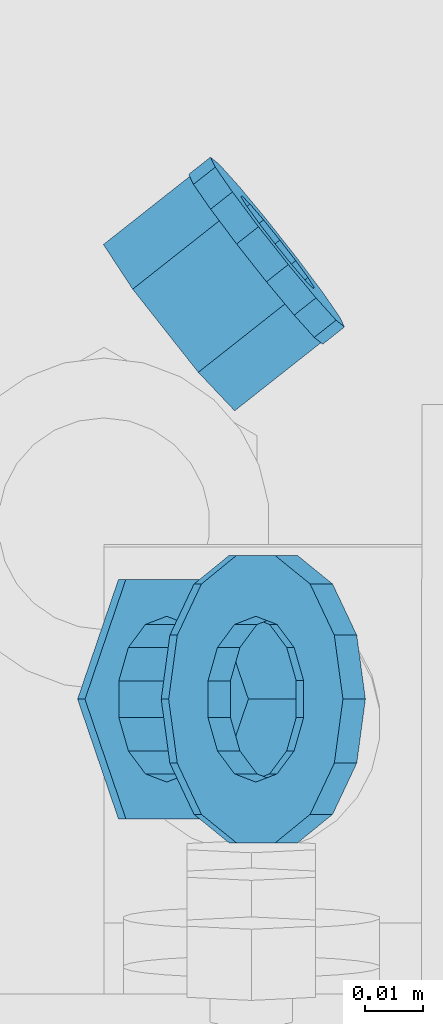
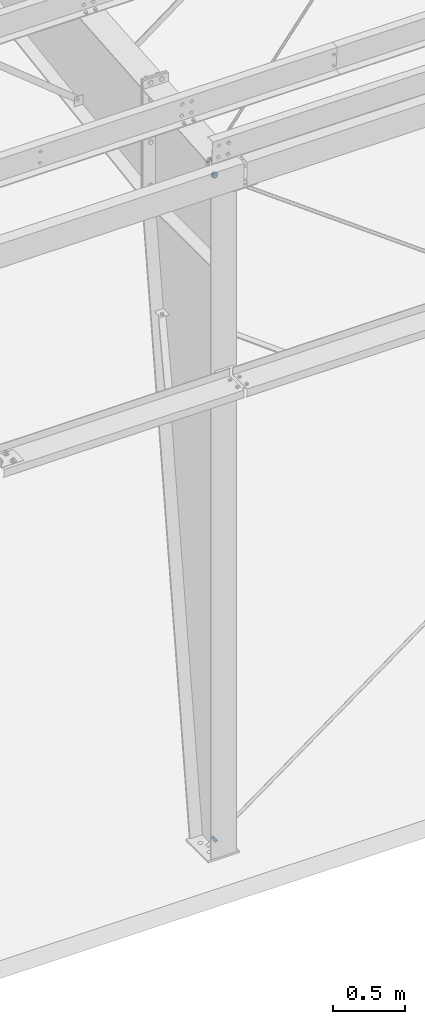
# One storey, part 25 of 185: 4 members, 2 beams, 6 elements without a shape of their own.
"""IFC2X3 building model written with IfcOpenShell, lengths in millimetres."""

from ifc_helpers import new_model, si_unit, frame, origin_with_axes, place, context, subcontext, project, spatial, polyline, outline, extrude, material, type_object, element, aggregate, save


model = new_model("IFC2X3")

# Units and contexts
model_context = context("Model", 3, precision=1e-05, world=origin_with_axes())
body_context = subcontext(model_context, "Body", "Model", "MODEL_VIEW")
ifc_project = project(units=[si_unit("LENGTHUNIT", "METRE", prefix="MILLI"), si_unit("AREAUNIT", "SQUARE_METRE"), si_unit("VOLUMEUNIT", "CUBIC_METRE"), si_unit("MASSUNIT", "GRAM", prefix="KILO"), si_unit("TIMEUNIT", "SECOND"), si_unit("PLANEANGLEUNIT", "RADIAN"), si_unit("SOLIDANGLEUNIT", "STERADIAN"), si_unit("THERMODYNAMICTEMPERATUREUNIT", "DEGREE_CELSIUS"), si_unit("LUMINOUSINTENSITYUNIT", "LUMEN")], contexts=[model_context])

# Site, building, storey
site_placement = place(None, origin_with_axes())
site = spatial("IfcSite", under=ifc_project, at=site_placement, Name="Undefined", CompositionType="ELEMENT")
building_placement = place(site_placement, origin_with_axes())
building = spatial("IfcBuilding", under=site, at=building_placement, Name="Undefined", CompositionType="ELEMENT")
storey_placement = place(building_placement, origin_with_axes())
storey = spatial("IfcBuildingStorey", under=building, at=storey_placement, Name="Undefined", CompositionType="ELEMENT", Elevation=0.0)

# Assembly, member
assembly_1_placement = place(storey_placement, origin_with_axes())
assembly_1 = element("IfcElementAssembly", 1, at=assembly_1_placement, inside=storey, Name="Steel Assembly", AssemblyPlace="NOTDEFINED", PredefinedType="RIGID_FRAME")
ifc_material = material(Name="STEEL/55")
member_type_1 = type_object("IfcMemberType", Name="1_HEAVY_HEX_NUT", PredefinedType="NOTDEFINED")
member_1_placement = place(assembly_1_placement, frame((7200.40094099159, 363.474, 139.957152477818), z_axis=(-8.18690000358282e-05, -0.999999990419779, 0.000111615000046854), x_axis=(-0.806313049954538, 0.0, -0.591489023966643)))
member_1 = element("IfcMember", 2, at=member_1_placement, type_object=member_type_1, material=ifc_material, Name="1 H HEX NUT A563", ObjectType="1_HEAVY_HEX_NUT", context=body_context, shape_type="SweptSolid", body=[
    extrude(outline(polyline([(-11.909999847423, 20.620000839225), (11.9099998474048, 20.6200008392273), (23.8099994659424, -4.9453774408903e-12), (11.9099998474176, -20.6200008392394), (-11.9099998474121, -20.6200008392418), (-23.8099994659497, -9.49285094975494e-12), (-11.909999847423, 20.620000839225)]), holes=[polyline([(11.1723718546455, -8.90966924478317), (13.9317198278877, -3.17982413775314), (13.9317198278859, 3.17982413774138), (11.17237185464, 8.9096692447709), (6.20019861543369, 12.8748450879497), (-5.45696821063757e-12, 14.2899999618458), (-6.20019861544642, 12.8748450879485), (-11.1723718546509, 8.90966924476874), (-13.931719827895, 3.17982413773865), (-13.9317198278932, -3.17982413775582), (-11.1723718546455, -8.90966924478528), (-6.20019861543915, -12.8748450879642), (0.0, -14.2899999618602), (6.20019861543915, -12.874845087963), (11.1723718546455, -8.90966924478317)])]), frame((19.0500000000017, 0.0, 2.58175642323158e-19), z_axis=(-1.0, 0.0, 0.0), x_axis=(0.0, -1.0, 0.0)), (0.0, 0.0, 1.0), 19.1),
])
aggregate(assembly_1, [member_1])

assembly_2_placement = place(storey_placement, origin_with_axes())
assembly_2 = element("IfcElementAssembly", 3, at=assembly_2_placement, inside=storey, Name="Steel Assembly", AssemblyPlace="NOTDEFINED", PredefinedType="RIGID_FRAME")
member_2_placement = place(assembly_2_placement, frame((7201.68022250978, 363.474000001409, 5785.15358834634), z_axis=(-0.000443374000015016, 0.999999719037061, -0.000604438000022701), x_axis=(-0.806329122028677, 0.0, 0.591467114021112)))
member_2 = element("IfcMember", 4, at=member_2_placement, type_object=member_type_1, material=ifc_material, Name="1 H HEX NUT A563", ObjectType="1_HEAVY_HEX_NUT", context=body_context, shape_type="SweptSolid", body=[
    extrude(outline(polyline([(-11.909999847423, 20.620000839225), (11.9099998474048, 20.6200008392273), (23.8099994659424, -4.9453774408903e-12), (11.9099998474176, -20.6200008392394), (-11.9099998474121, -20.6200008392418), (-23.8099994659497, -9.49285094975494e-12), (-11.909999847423, 20.620000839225)]), holes=[polyline([(11.1723718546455, -8.90966924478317), (13.9317198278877, -3.17982413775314), (13.9317198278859, 3.17982413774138), (11.17237185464, 8.9096692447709), (6.20019861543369, 12.8748450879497), (-5.45696821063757e-12, 14.2899999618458), (-6.20019861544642, 12.8748450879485), (-11.1723718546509, 8.90966924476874), (-13.931719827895, 3.17982413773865), (-13.9317198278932, -3.17982413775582), (-11.1723718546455, -8.90966924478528), (-6.20019861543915, -12.8748450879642), (0.0, -14.2899999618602), (6.20019861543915, -12.874845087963), (11.1723718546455, -8.90966924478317)])]), frame((19.0500000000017, 0.0, 2.58175642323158e-19), z_axis=(-1.0, 0.0, 0.0), x_axis=(0.0, -1.0, 0.0)), (0.0, 0.0, 1.0), 19.0),
])
aggregate(assembly_2, [member_2])

assembly_3_placement = place(storey_placement, origin_with_axes())
assembly_3 = element("IfcElementAssembly", 5, at=assembly_3_placement, inside=storey, Name="Steel Assembly", AssemblyPlace="NOTDEFINED", PredefinedType="RIGID_FRAME")
member_type_2 = type_object("IfcMemberType", Name="1_WASHER", PredefinedType="NOTDEFINED")
member_3_placement = place(assembly_3_placement, frame((7204.24100689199, 363.474, 142.774118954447), z_axis=(-8.18690000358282e-05, -0.999999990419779, 0.000111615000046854), x_axis=(-0.806313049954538, 0.0, -0.591489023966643)))
member_3 = element("IfcMember", 6, at=member_3_placement, type_object=member_type_2, material=ifc_material, Name="1 WASHER F844", ObjectType="1_WASHER", context=body_context, shape_type="SweptSolid", body=[
    extrude(outline(polyline([(15.8366407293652, 19.8585193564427), (22.8846089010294, 11.020646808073), (25.3999996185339, 6.25277607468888e-13), (22.8846089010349, -11.0206468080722), (15.8366407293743, -19.8585193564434), (5.6520316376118, -24.7631685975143), (-5.65203163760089, -24.7631685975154), (-15.8366407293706, -19.8585193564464), (-22.8846089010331, -11.0206468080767), (-25.3999996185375, -4.32009983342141e-12), (-22.8846089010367, 11.0206468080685), (-15.8366407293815, 19.8585193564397), (-5.65203163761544, 24.7631685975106), (5.65203163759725, 24.7631685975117), (15.8366407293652, 19.8585193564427)]), holes=[polyline([(11.1723718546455, -8.90966924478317), (13.9317198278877, -3.17982413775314), (13.9317198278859, 3.17982413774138), (11.17237185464, 8.9096692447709), (6.20019861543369, 12.8748450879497), (-5.45696821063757e-12, 14.2899999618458), (-6.20019861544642, 12.8748450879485), (-11.1723718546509, 8.90966924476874), (-13.931719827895, 3.17982413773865), (-13.9317198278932, -3.17982413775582), (-11.1723718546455, -8.90966924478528), (-6.20019861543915, -12.8748450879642), (0.0, -14.2899999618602), (6.20019861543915, -12.874845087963), (11.1723718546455, -8.90966924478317)])]), frame((4.76250000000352, 2.6437185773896e-16, 5.6843418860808e-14), z_axis=(-1.0, 0.0, 0.0), x_axis=(0.0, -1.0, 0.0)), (0.0, 0.0, 1.0), 4.8),
])
aggregate(assembly_3, [member_3])

assembly_4_placement = place(storey_placement, origin_with_axes())
assembly_4 = element("IfcElementAssembly", 7, at=assembly_4_placement, inside=storey, Name="Steel Assembly", AssemblyPlace="NOTDEFINED", PredefinedType="RIGID_FRAME")
member_4_placement = place(assembly_4_placement, frame((7205.52036495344, 363.474000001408, 5782.33672621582), z_axis=(-0.000443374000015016, 0.999999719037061, -0.000604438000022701), x_axis=(-0.806329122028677, 0.0, 0.591467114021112)))
member_4 = element("IfcMember", 8, at=member_4_placement, type_object=member_type_2, material=ifc_material, Name="1 WASHER F844", ObjectType="1_WASHER", context=body_context, shape_type="SweptSolid", body=[
    extrude(outline(polyline([(15.8366407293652, 19.8585193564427), (22.8846089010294, 11.020646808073), (25.3999996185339, 6.25277607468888e-13), (22.8846089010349, -11.0206468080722), (15.8366407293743, -19.8585193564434), (5.6520316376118, -24.7631685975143), (-5.65203163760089, -24.7631685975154), (-15.8366407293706, -19.8585193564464), (-22.8846089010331, -11.0206468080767), (-25.3999996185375, -4.32009983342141e-12), (-22.8846089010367, 11.0206468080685), (-15.8366407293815, 19.8585193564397), (-5.65203163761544, 24.7631685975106), (5.65203163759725, 24.7631685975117), (15.8366407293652, 19.8585193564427)]), holes=[polyline([(11.1723718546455, -8.90966924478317), (13.9317198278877, -3.17982413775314), (13.9317198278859, 3.17982413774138), (11.17237185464, 8.9096692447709), (6.20019861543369, 12.8748450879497), (-5.45696821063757e-12, 14.2899999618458), (-6.20019861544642, 12.8748450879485), (-11.1723718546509, 8.90966924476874), (-13.931719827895, 3.17982413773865), (-13.9317198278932, -3.17982413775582), (-11.1723718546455, -8.90966924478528), (-6.20019861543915, -12.8748450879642), (0.0, -14.2899999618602), (6.20019861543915, -12.874845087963), (11.1723718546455, -8.90966924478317)])]), frame((4.76250000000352, 2.6437185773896e-16, 5.6843418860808e-14), z_axis=(-1.0, 0.0, 0.0), x_axis=(0.0, -1.0, 0.0)), (0.0, 0.0, 1.0), 4.8),
])
aggregate(assembly_4, [member_4])

# Assembly, beam
assembly_5_placement = place(storey_placement, origin_with_axes())
assembly_5 = element("IfcElementAssembly", 9, at=assembly_5_placement, inside=storey, Name="Steel Assembly", AssemblyPlace="NOTDEFINED", PredefinedType="RIGID_FRAME")
beam_type_1 = type_object("IfcBeamType", Name="3/4_HEAVY_HEX_NUT", PredefinedType="NOTDEFINED")
beam_1_placement = place(assembly_5_placement, frame((7201.66126218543, 439.300217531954, 5869.75017582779), z_axis=(-0.0390529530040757, -0.0337262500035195, 0.998667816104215), x_axis=(-0.78401551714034, -0.618597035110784, -0.051549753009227)))
beam_1 = element("IfcBeam", 10, at=beam_1_placement, type_object=beam_type_1, material=ifc_material, Name="3/4 H HEX NUT A563", ObjectType="3/4_HEAVY_HEX_NUT", context=body_context, shape_type="SweptSolid", body=[
    extrude(outline(polyline([(9.13000011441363, -15.810000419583), (-9.13000011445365, -15.810000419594), (-18.2600002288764, 1.54614099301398e-11), (-9.13000011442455, 15.8100004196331), (9.13000011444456, 15.8100004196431), (18.2600002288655, 3.36513039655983e-11), (9.13000011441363, -15.810000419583)]), holes=[polyline([(-8.06850066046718, 6.43441456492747), (-10.061255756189, 2.29641597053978), (-10.0612557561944, -2.29641597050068), (-8.06850066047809, -6.43441456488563), (-4.47768005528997, -9.29799844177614), (-1.09139364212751e-11, -10.3199996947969), (4.47768005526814, -9.29799844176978), (8.0685006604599, -6.43441456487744), (10.0612557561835, -2.29641597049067), (10.0612557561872, 2.2964159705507), (8.06850066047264, 6.43441456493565), (4.47768005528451, 9.29799844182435), (7.27595761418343e-12, 10.319999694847), (-4.47768005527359, 9.2979984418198), (-8.06850066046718, 6.43441456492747)])]), frame((19.0500000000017, 0.0, 2.58175642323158e-19), z_axis=(-1.0, 0.0, 0.0), x_axis=(0.0, -1.0, 0.0)), (0.0, 0.0, 1.0), 19.1),
])
aggregate(assembly_5, [beam_1])

assembly_6_placement = place(storey_placement, origin_with_axes())
assembly_6 = element("IfcElementAssembly", 11, at=assembly_6_placement, inside=storey, Name="Steel Assembly", AssemblyPlace="NOTDEFINED", PredefinedType="RIGID_FRAME")
beam_type_2 = type_object("IfcBeamType", Name="3/4_WASHER", PredefinedType="NOTDEFINED")
beam_2_placement = place(assembly_6_placement, frame((7205.39513608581, 442.246285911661, 5869.99568152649), z_axis=(-0.0390529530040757, -0.0337262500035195, 0.998667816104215), x_axis=(-0.78401551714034, -0.618597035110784, -0.051549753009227)))
beam_2 = element("IfcBeam", 12, at=beam_2_placement, type_object=beam_type_2, material=ifc_material, Name="3/4 WASHER F844", ObjectType="3/4_WASHER", context=body_context, shape_type="SweptSolid", body=[
    extrude(outline(polyline([(-11.6280845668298, -14.5811568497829), (-16.8030690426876, -8.09193156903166), (-18.649999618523, -4.54747350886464e-12), (-16.8030690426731, 8.09193156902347), (-11.6280845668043, 14.5811568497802), (-4.15001533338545, 18.1824051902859), (4.15001533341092, 18.1824051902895), (11.628084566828, 14.5811568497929), (16.8030690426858, 8.09193156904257), (18.6499996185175, 1.45519152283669e-11), (16.8030690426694, -8.09193156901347), (11.6280845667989, -14.5811568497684), (4.15001533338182, -18.182405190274), (-4.15001533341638, -18.1824051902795), (-11.6280845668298, -14.5811568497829)]), holes=[polyline([(-8.06850066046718, 6.43441456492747), (-10.061255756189, 2.29641597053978), (-10.0612557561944, -2.29641597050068), (-8.06850066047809, -6.43441456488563), (-4.47768005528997, -9.29799844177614), (-1.09139364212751e-11, -10.3199996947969), (4.47768005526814, -9.29799844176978), (8.0685006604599, -6.43441456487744), (10.0612557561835, -2.29641597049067), (10.0612557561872, 2.2964159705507), (8.06850066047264, 6.43441456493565), (4.47768005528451, 9.29799844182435), (7.27595761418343e-12, 10.319999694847), (-4.47768005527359, 9.2979984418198), (-8.06850066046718, 6.43441456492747)])]), frame((4.76250000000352, 2.6437185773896e-16, 5.6843418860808e-14), z_axis=(-1.0, 0.0, 0.0), x_axis=(0.0, -1.0, 0.0)), (0.0, 0.0, 1.0), 4.8),
])
aggregate(assembly_6, [beam_2])

save(model, "model.ifc")
